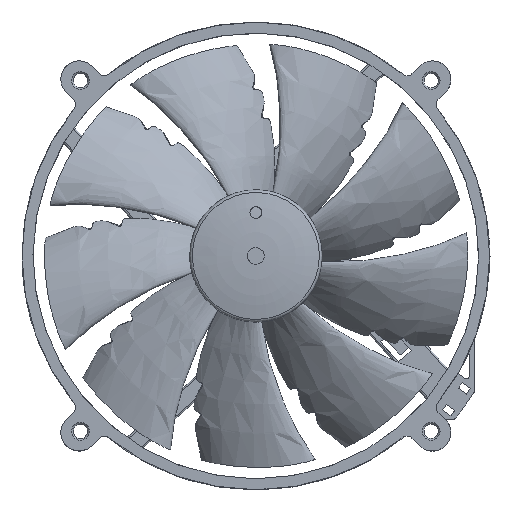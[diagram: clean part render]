
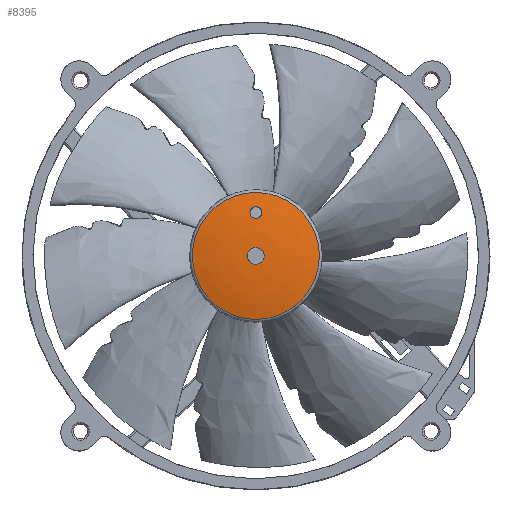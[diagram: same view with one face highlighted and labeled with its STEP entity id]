
A CAD part, top view. The second image highlights one B-rep face of the part: STEP entity #8395.
In plain terms, the highlighted toroidal (fillet/blend) face has major radius 2.5 mm and minor radius 75.823 mm.
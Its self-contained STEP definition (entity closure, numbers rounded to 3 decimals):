
#20=DEGENERATE_TOROIDAL_SURFACE('',#9600,2.5,75.822,.T.);
#169=(
BOUNDED_CURVE()
B_SPLINE_CURVE(3,(#15997,#15998,#15999,#16000),.UNSPECIFIED.,.F.,.F.)
B_SPLINE_CURVE_WITH_KNOTS((4,4),(0.,1.),.UNSPECIFIED.)
CURVE()
GEOMETRIC_REPRESENTATION_ITEM()
RATIONAL_B_SPLINE_CURVE((1.,0.333,0.333,1.))
REPRESENTATION_ITEM('')
);
#170=(
BOUNDED_CURVE()
B_SPLINE_CURVE(3,(#16003,#16004,#16005,#16006),.UNSPECIFIED.,.F.,.F.)
B_SPLINE_CURVE_WITH_KNOTS((4,4),(0.,1.),.UNSPECIFIED.)
CURVE()
GEOMETRIC_REPRESENTATION_ITEM()
RATIONAL_B_SPLINE_CURVE((1.,0.333,0.333,1.))
REPRESENTATION_ITEM('')
);
#291=B_SPLINE_CURVE_WITH_KNOTS('',3,(#15954,#15955,#15956,#15957,#15958,
#15959,#15960,#15961,#15962,#15963,#15964,#15965,#15966,#15967,#15968,#15969,
#15970,#15971,#15972,#15973,#15974),.UNSPECIFIED.,.F.,.F.,(4,1,1,1,1,1,
1,1,1,1,1,1,1,1,1,1,1,1,4),(0.,0.063,0.094,
0.125,0.156,0.188,0.25,
0.313,0.375,0.5,0.625,
0.688,0.75,0.813,0.844,
0.875,0.906,0.938,1.),.UNSPECIFIED.);
#292=B_SPLINE_CURVE_WITH_KNOTS('',3,(#15977,#15978,#15979,#15980,#15981,
#15982,#15983,#15984,#15985,#15986,#15987,#15988,#15989,#15990,#15991,#15992,
#15993,#15994,#15995),.UNSPECIFIED.,.F.,.F.,(4,1,1,1,1,1,1,1,1,1,1,1,1,
1,1,1,4),(0.,0.125,0.188,0.219,
0.25,0.281,0.313,0.375,
0.5,0.625,0.688,0.719,
0.75,0.781,0.813,0.875,
1.),.UNSPECIFIED.);
#857=CIRCLE('',#9601,19.018);
#2616=ORIENTED_EDGE('',*,*,#4490,.T.);
#2617=ORIENTED_EDGE('',*,*,#4491,.T.);
#2618=ORIENTED_EDGE('',*,*,#4489,.T.);
#2619=ORIENTED_EDGE('',*,*,#4488,.T.);
#2620=ORIENTED_EDGE('',*,*,#4492,.F.);
#4488=EDGE_CURVE('',#5532,#5533,#291,.F.);
#4489=EDGE_CURVE('',#5533,#5532,#292,.F.);
#4490=EDGE_CURVE('',#5534,#5535,#169,.T.);
#4491=EDGE_CURVE('',#5535,#5534,#170,.T.);
#4492=EDGE_CURVE('',#5536,#5536,#857,.T.);
#5532=VERTEX_POINT('',#15975);
#5533=VERTEX_POINT('',#15976);
#5534=VERTEX_POINT('',#16001);
#5535=VERTEX_POINT('',#16002);
#5536=VERTEX_POINT('',#16009);
#7201=EDGE_LOOP('',(#2616,#2617));
#7202=EDGE_LOOP('',(#2618,#2619));
#7203=EDGE_LOOP('',(#2620));
#7718=FACE_BOUND('',#7201,.T.);
#7719=FACE_BOUND('',#7202,.T.);
#7720=FACE_BOUND('',#7203,.T.);
#8395=ADVANCED_FACE('',(#7718,#7719,#7720),#20,.T.);
#9600=AXIS2_PLACEMENT_3D('',#16007,#11305,#11306);
#9601=AXIS2_PLACEMENT_3D('',#16008,#11307,#11308);
#11305=DIRECTION('',(0.,0.,1.));
#11306=DIRECTION('',(1.,0.,0.));
#11307=DIRECTION('',(0.,0.,-1.));
#11308=DIRECTION('',(-1.,0.,0.));
#15954=CARTESIAN_POINT('',(1.75,13.,23.553));
#15955=CARTESIAN_POINT('',(1.75,13.16,23.531));
#15956=CARTESIAN_POINT('',(1.72,13.361,23.502));
#15957=CARTESIAN_POINT('',(1.656,13.568,23.473));
#15958=CARTESIAN_POINT('',(1.628,13.649,23.461));
#15959=CARTESIAN_POINT('',(1.538,13.843,23.434));
#15960=CARTESIAN_POINT('',(1.416,14.037,23.406));
#15961=CARTESIAN_POINT('',(1.256,14.235,23.378));
#15962=CARTESIAN_POINT('',(0.964,14.476,23.344));
#15963=CARTESIAN_POINT('',(0.55,14.688,23.313));
#15964=CARTESIAN_POINT('',(-0.002,14.792,23.298));
#15965=CARTESIAN_POINT('',(-0.553,14.687,23.313));
#15966=CARTESIAN_POINT('',(-0.966,14.475,23.344));
#15967=CARTESIAN_POINT('',(-1.257,14.234,23.378));
#15968=CARTESIAN_POINT('',(-1.417,14.036,23.406));
#15969=CARTESIAN_POINT('',(-1.539,13.843,23.434));
#15970=CARTESIAN_POINT('',(-1.628,13.648,23.462));
#15971=CARTESIAN_POINT('',(-1.656,13.568,23.473));
#15972=CARTESIAN_POINT('',(-1.72,13.36,23.503));
#15973=CARTESIAN_POINT('',(-1.75,13.16,23.531));
#15974=CARTESIAN_POINT('',(-1.75,13.,23.553));
#15975=CARTESIAN_POINT('',(-1.75,13.,23.553));
#15976=CARTESIAN_POINT('',(1.75,13.,23.553));
#15977=CARTESIAN_POINT('',(-1.75,13.,23.553));
#15978=CARTESIAN_POINT('',(-1.75,12.706,23.594));
#15979=CARTESIAN_POINT('',(-1.638,12.319,23.647));
#15980=CARTESIAN_POINT('',(-1.446,12.005,23.69));
#15981=CARTESIAN_POINT('',(-1.323,11.853,23.712));
#15982=CARTESIAN_POINT('',(-1.252,11.774,23.723));
#15983=CARTESIAN_POINT('',(-1.105,11.638,23.741));
#15984=CARTESIAN_POINT('',(-0.919,11.503,23.759));
#15985=CARTESIAN_POINT('',(-0.553,11.311,23.785));
#15986=CARTESIAN_POINT('',(0.002,11.209,23.799));
#15987=CARTESIAN_POINT('',(0.555,11.312,23.785));
#15988=CARTESIAN_POINT('',(0.92,11.504,23.759));
#15989=CARTESIAN_POINT('',(1.107,11.64,23.741));
#15990=CARTESIAN_POINT('',(1.253,11.775,23.722));
#15991=CARTESIAN_POINT('',(1.324,11.854,23.711));
#15992=CARTESIAN_POINT('',(1.447,12.006,23.69));
#15993=CARTESIAN_POINT('',(1.638,12.319,23.646));
#15994=CARTESIAN_POINT('',(1.75,12.706,23.594));
#15995=CARTESIAN_POINT('',(1.75,13.,23.553));
#15997=CARTESIAN_POINT('',(-2.5,0.,24.3));
#15998=CARTESIAN_POINT('',(-2.5,5.,24.3));
#15999=CARTESIAN_POINT('',(2.5,5.,24.3));
#16000=CARTESIAN_POINT('',(2.5,0.,24.3));
#16001=CARTESIAN_POINT('',(-2.5,0.,24.3));
#16002=CARTESIAN_POINT('',(2.5,0.,24.3));
#16003=CARTESIAN_POINT('',(2.5,0.,24.3));
#16004=CARTESIAN_POINT('',(2.5,-5.,24.3));
#16005=CARTESIAN_POINT('',(-2.5,-5.,24.3));
#16006=CARTESIAN_POINT('',(-2.5,0.,24.3));
#16007=CARTESIAN_POINT('',(0.,0.,-51.522));
#16008=CARTESIAN_POINT('',(0.,0.,22.479));
#16009=CARTESIAN_POINT('',(-19.018,0.,22.479));
